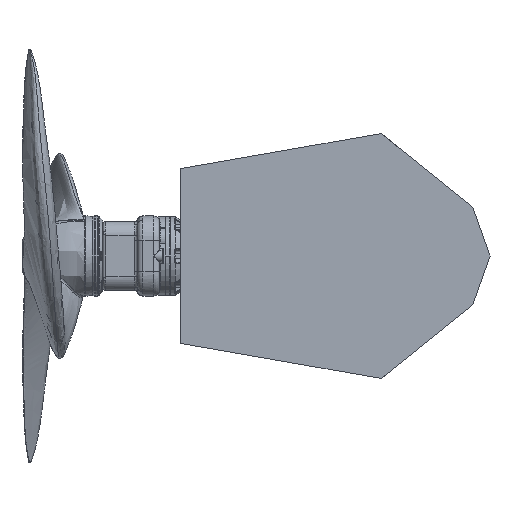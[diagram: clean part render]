
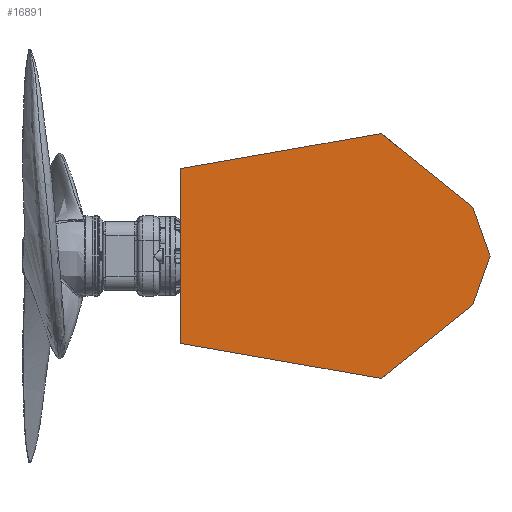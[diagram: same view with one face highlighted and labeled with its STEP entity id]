
A CAD part, front view. The second image highlights one B-rep face of the part: STEP entity #16891.
In plain terms, the highlighted planar face has unit normal (0, -1, 0).
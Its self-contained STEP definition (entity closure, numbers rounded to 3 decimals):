
#11839 = FACE_OUTER_BOUND ( 'NONE', #15919, .T. ) ;
#12294 = CARTESIAN_POINT ( 'NONE',  ( 954.727, -2323.509, -466.818 ) ) ;
#12299 = PLANE ( 'NONE',  #142426 ) ;
#12304 = DIRECTION ( 'NONE',  ( 0., -1., 0. ) ) ;
#12308 = DIRECTION ( 'NONE',  ( 0., 0., -1. ) ) ;
#15919 = EDGE_LOOP ( 'NONE', ( #392381, #392377, #392375, #392380, #392481, #392482, #392499 ) ) ;
#16891 = ADVANCED_FACE ( 'NONE', ( #11839 ), #12299, .T. ) ;
#26103 = VERTEX_POINT ( 'NONE', #130690 ) ;
#26110 = VERTEX_POINT ( 'NONE', #130710 ) ;
#26235 = VERTEX_POINT ( 'NONE', #130804 ) ;
#26239 = VERTEX_POINT ( 'NONE', #130806 ) ;
#26243 = VERTEX_POINT ( 'NONE', #130818 ) ;
#26257 = VERTEX_POINT ( 'NONE', #130814 ) ;
#26261 = VERTEX_POINT ( 'NONE', #130832 ) ;
#40110 = B_SPLINE_CURVE_WITH_KNOTS ( 'NONE', 3,
 ( #415768, #415769, #415777, #415778 ),
 .UNSPECIFIED., .F., .F.,
 ( 4, 4 ),
 ( 0., 1. ),
 .UNSPECIFIED. ) ;
#40138 = B_SPLINE_CURVE_WITH_KNOTS ( 'NONE', 3,
 ( #415924, #415910, #415942, #415944 ),
 .UNSPECIFIED., .F., .F.,
 ( 4, 4 ),
 ( 0., 1. ),
 .UNSPECIFIED. ) ;
#40147 = B_SPLINE_CURVE_WITH_KNOTS ( 'NONE', 3,
 ( #415936, #415940, #415951, #415953, #415955, #415957, #415959, #415961, #415963, #415965, #415967, #415969 ),
 .UNSPECIFIED., .F., .F.,
 ( 4, 1, 1, 1, 2, 1, 1, 1, 4 ),
 ( 0., 0.194, 0.389, 0.583, 0.777, 0.833, 0.889, 0.944, 1. ),
 .UNSPECIFIED. ) ;
#40154 = B_SPLINE_CURVE_WITH_KNOTS ( 'NONE', 3,
 ( #415938, #415946, #415976, #415978 ),
 .UNSPECIFIED., .F., .F.,
 ( 4, 4 ),
 ( 0., 1. ),
 .UNSPECIFIED. ) ;
#40162 = B_SPLINE_CURVE_WITH_KNOTS ( 'NONE', 3,
 ( #415949, #415971, #415985, #415987 ),
 .UNSPECIFIED., .F., .F.,
 ( 4, 4 ),
 ( 0., 1. ),
 .UNSPECIFIED. ) ;
#40169 = B_SPLINE_CURVE_WITH_KNOTS ( 'NONE', 3,
 ( #415974, #415980, #415994, #415996, #415998, #416000, #416002, #416004, #416006, #416008, #416010, #416012 ),
 .UNSPECIFIED., .F., .F.,
 ( 4, 1, 1, 1, 2, 1, 1, 1, 4 ),
 ( 0., 0.056, 0.111, 0.167, 0.223, 0.417, 0.611, 0.806, 1. ),
 .UNSPECIFIED. ) ;
#40176 = B_SPLINE_CURVE_WITH_KNOTS ( 'NONE', 3,
 ( #415983, #415989, #416019, #416021 ),
 .UNSPECIFIED., .F., .F.,
 ( 4, 4 ),
 ( 0., 1. ),
 .UNSPECIFIED. ) ;
#130690 = CARTESIAN_POINT ( 'NONE',  ( 35.282, -2323.509, -305.915 ) ) ;
#130710 = CARTESIAN_POINT ( 'NONE',  ( 35.282, -2323.509, 305.915 ) ) ;
#130804 = CARTESIAN_POINT ( 'NONE',  ( 1058.342, -2323.509, 171.513 ) ) ;
#130806 = CARTESIAN_POINT ( 'NONE',  ( 737.382, -2323.509, -428.782 ) ) ;
#130814 = CARTESIAN_POINT ( 'NONE',  ( 1058.342, -2323.509, -171.513 ) ) ;
#130818 = CARTESIAN_POINT ( 'NONE',  ( 1118.522, -2323.509, 0. ) ) ;
#130832 = CARTESIAN_POINT ( 'NONE',  ( 737.382, -2323.509, 428.783 ) ) ;
#142426 = AXIS2_PLACEMENT_3D ( 'NONE', #12294, #12304, #12308 ) ;
#370459 = EDGE_CURVE ( 'NONE', #26103, #26110, #40110, .T. ) ;
#370547 = EDGE_CURVE ( 'NONE', #26239, #26103, #40138, .T. ) ;
#370550 = EDGE_CURVE ( 'NONE', #26257, #26239, #40147, .T. ) ;
#370554 = EDGE_CURVE ( 'NONE', #26243, #26257, #40154, .T. ) ;
#370558 = EDGE_CURVE ( 'NONE', #26235, #26243, #40162, .T. ) ;
#370561 = EDGE_CURVE ( 'NONE', #26261, #26235, #40169, .T. ) ;
#370564 = EDGE_CURVE ( 'NONE', #26110, #26261, #40176, .T. ) ;
#392375 = ORIENTED_EDGE ( 'NONE', *, *, #370554, .F. ) ;
#392377 = ORIENTED_EDGE ( 'NONE', *, *, #370550, .F. ) ;
#392380 = ORIENTED_EDGE ( 'NONE', *, *, #370558, .F. ) ;
#392381 = ORIENTED_EDGE ( 'NONE', *, *, #370547, .F. ) ;
#392481 = ORIENTED_EDGE ( 'NONE', *, *, #370561, .F. ) ;
#392482 = ORIENTED_EDGE ( 'NONE', *, *, #370564, .F. ) ;
#392499 = ORIENTED_EDGE ( 'NONE', *, *, #370459, .F. ) ;
#415768 = CARTESIAN_POINT ( 'NONE',  ( 35.282, -2323.509, -305.915 ) ) ;
#415769 = CARTESIAN_POINT ( 'NONE',  ( 35.282, -2323.509, -101.972 ) ) ;
#415777 = CARTESIAN_POINT ( 'NONE',  ( 35.282, -2323.509, 101.972 ) ) ;
#415778 = CARTESIAN_POINT ( 'NONE',  ( 35.282, -2323.509, 305.915 ) ) ;
#415910 = CARTESIAN_POINT ( 'NONE',  ( 503.349, -2323.509, -387.827 ) ) ;
#415924 = CARTESIAN_POINT ( 'NONE',  ( 737.382, -2323.509, -428.782 ) ) ;
#415936 = CARTESIAN_POINT ( 'NONE',  ( 1058.342, -2323.509, -171.513 ) ) ;
#415938 = CARTESIAN_POINT ( 'NONE',  ( 1118.522, -2323.509, 0. ) ) ;
#415940 = CARTESIAN_POINT ( 'NONE',  ( 1037.548, -2323.509, -188.181 ) ) ;
#415942 = CARTESIAN_POINT ( 'NONE',  ( 269.316, -2323.509, -346.871 ) ) ;
#415944 = CARTESIAN_POINT ( 'NONE',  ( 35.282, -2323.509, -305.915 ) ) ;
#415946 = CARTESIAN_POINT ( 'NONE',  ( 1098.462, -2323.509, -57.171 ) ) ;
#415949 = CARTESIAN_POINT ( 'NONE',  ( 1058.342, -2323.509, 171.513 ) ) ;
#415951 = CARTESIAN_POINT ( 'NONE',  ( 995.958, -2323.509, -221.518 ) ) ;
#415953 = CARTESIAN_POINT ( 'NONE',  ( 933.574, -2323.509, -271.522 ) ) ;
#415955 = CARTESIAN_POINT ( 'NONE',  ( 871.19, -2323.509, -321.527 ) ) ;
#415957 = CARTESIAN_POINT ( 'NONE',  ( 829.601, -2323.509, -354.864 ) ) ;
#415959 = CARTESIAN_POINT ( 'NONE',  ( 802.854, -2323.509, -376.303 ) ) ;
#415961 = CARTESIAN_POINT ( 'NONE',  ( 790.95, -2323.509, -385.844 ) ) ;
#415963 = CARTESIAN_POINT ( 'NONE',  ( 773.094, -2323.509, -400.157 ) ) ;
#415965 = CARTESIAN_POINT ( 'NONE',  ( 755.238, -2323.509, -414.47 ) ) ;
#415967 = CARTESIAN_POINT ( 'NONE',  ( 743.334, -2323.509, -424.012 ) ) ;
#415969 = CARTESIAN_POINT ( 'NONE',  ( 737.382, -2323.509, -428.782 ) ) ;
#415971 = CARTESIAN_POINT ( 'NONE',  ( 1078.402, -2323.509, 114.342 ) ) ;
#415974 = CARTESIAN_POINT ( 'NONE',  ( 737.382, -2323.509, 428.783 ) ) ;
#415976 = CARTESIAN_POINT ( 'NONE',  ( 1078.402, -2323.509, -114.342 ) ) ;
#415978 = CARTESIAN_POINT ( 'NONE',  ( 1058.342, -2323.509, -171.513 ) ) ;
#415980 = CARTESIAN_POINT ( 'NONE',  ( 743.334, -2323.509, 424.012 ) ) ;
#415983 = CARTESIAN_POINT ( 'NONE',  ( 35.282, -2323.509, 305.915 ) ) ;
#415985 = CARTESIAN_POINT ( 'NONE',  ( 1098.462, -2323.509, 57.171 ) ) ;
#415987 = CARTESIAN_POINT ( 'NONE',  ( 1118.522, -2323.509, 0. ) ) ;
#415989 = CARTESIAN_POINT ( 'NONE',  ( 269.316, -2323.509, 346.871 ) ) ;
#415994 = CARTESIAN_POINT ( 'NONE',  ( 755.238, -2323.509, 414.47 ) ) ;
#415996 = CARTESIAN_POINT ( 'NONE',  ( 773.094, -2323.509, 400.157 ) ) ;
#415998 = CARTESIAN_POINT ( 'NONE',  ( 790.95, -2323.509, 385.845 ) ) ;
#416000 = CARTESIAN_POINT ( 'NONE',  ( 802.854, -2323.509, 376.303 ) ) ;
#416002 = CARTESIAN_POINT ( 'NONE',  ( 829.601, -2323.509, 354.864 ) ) ;
#416004 = CARTESIAN_POINT ( 'NONE',  ( 871.19, -2323.509, 321.527 ) ) ;
#416006 = CARTESIAN_POINT ( 'NONE',  ( 933.574, -2323.509, 271.522 ) ) ;
#416008 = CARTESIAN_POINT ( 'NONE',  ( 995.958, -2323.509, 221.518 ) ) ;
#416010 = CARTESIAN_POINT ( 'NONE',  ( 1037.548, -2323.509, 188.181 ) ) ;
#416012 = CARTESIAN_POINT ( 'NONE',  ( 1058.342, -2323.509, 171.513 ) ) ;
#416019 = CARTESIAN_POINT ( 'NONE',  ( 503.349, -2323.509, 387.827 ) ) ;
#416021 = CARTESIAN_POINT ( 'NONE',  ( 737.382, -2323.509, 428.783 ) ) ;
